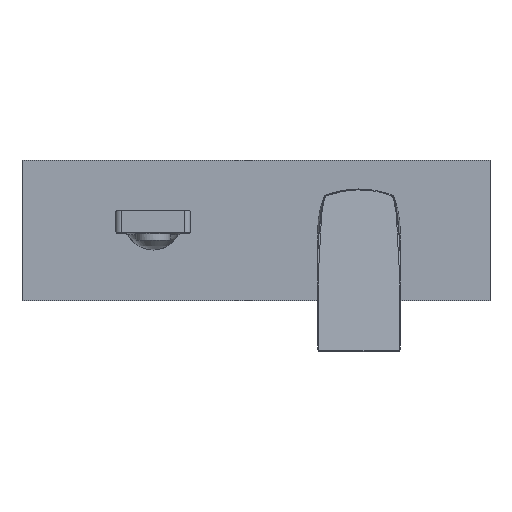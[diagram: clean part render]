
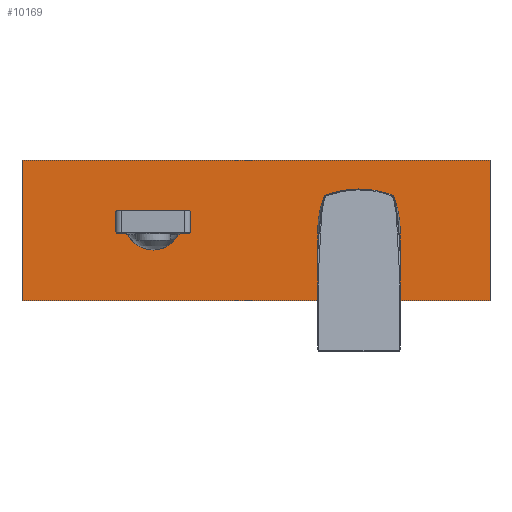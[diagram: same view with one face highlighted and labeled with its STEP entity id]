
A CAD part, top view. The second image highlights one B-rep face of the part: STEP entity #10169.
In plain terms, the highlighted planar face has unit normal (0, 0, 1).
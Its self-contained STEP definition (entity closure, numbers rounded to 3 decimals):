
#1332=DIRECTION('',(0.,-1.,0.));
#1333=VECTOR('',#1332,75.);
#1334=CARTESIAN_POINT('',(-182.,37.5,45.7));
#1335=LINE('',#1334,#1333);
#1336=DIRECTION('',(-1.,0.,0.));
#1337=VECTOR('',#1336,250.);
#1338=CARTESIAN_POINT('',(68.,37.5,45.7));
#1339=LINE('',#1338,#1337);
#1340=DIRECTION('',(0.,1.,0.));
#1341=VECTOR('',#1340,75.);
#1342=CARTESIAN_POINT('',(68.,-37.5,45.7));
#1343=LINE('',#1342,#1341);
#1344=DIRECTION('',(1.,0.,0.));
#1345=VECTOR('',#1344,250.);
#1346=CARTESIAN_POINT('',(-182.,-37.5,45.7));
#1347=LINE('',#1346,#1345);
#1348=CARTESIAN_POINT('',(-2.,0.,45.7));
#1349=DIRECTION('',(0.,0.,1.));
#1350=DIRECTION('',(1.,0.,0.));
#1351=AXIS2_PLACEMENT_3D('',#1348,#1349,#1350);
#1353=CARTESIAN_POINT('',(-2.,0.,45.7));
#1354=DIRECTION('',(0.,0.,1.));
#1355=DIRECTION('',(-1.,0.,0.));
#1356=AXIS2_PLACEMENT_3D('',#1353,#1354,#1355);
#1358=DIRECTION('',(0.,-1.,0.));
#1359=VECTOR('',#1358,9.);
#1360=CARTESIAN_POINT('',(-92.,9.,45.7));
#1361=LINE('',#1360,#1359);
#1362=CARTESIAN_POINT('',(-112.,4.5,45.7));
#1363=DIRECTION('',(0.,0.,-1.));
#1364=DIRECTION('',(0.956,0.293,0.));
#1365=AXIS2_PLACEMENT_3D('',#1362,#1363,#1364);
#1367=DIRECTION('',(1.,0.,0.));
#1368=VECTOR('',#1367,39.205);
#1369=CARTESIAN_POINT('',(-131.602,10.5,45.7));
#1370=LINE('',#1369,#1368);
#1371=CARTESIAN_POINT('',(-112.,4.5,45.7));
#1372=DIRECTION('',(0.,0.,-1.));
#1373=DIRECTION('',(-0.976,0.22,0.));
#1374=AXIS2_PLACEMENT_3D('',#1371,#1372,#1373);
#1376=DIRECTION('',(0.,1.,0.));
#1377=VECTOR('',#1376,9.);
#1378=CARTESIAN_POINT('',(-132.,0.,45.7));
#1379=LINE('',#1378,#1377);
#1380=CARTESIAN_POINT('',(-112.,4.5,45.7));
#1381=DIRECTION('',(0.,0.,-1.));
#1382=DIRECTION('',(-0.956,-0.293,0.));
#1383=AXIS2_PLACEMENT_3D('',#1380,#1381,#1382);
#1385=DIRECTION('',(-1.,0.,0.));
#1386=VECTOR('',#1385,4.922);
#1387=CARTESIAN_POINT('',(-126.68,-1.5,45.7));
#1388=LINE('',#1387,#1386);
#1389=DIRECTION('',(-0.819,0.574,0.));
#1390=VECTOR('',#1389,1.715);
#1391=CARTESIAN_POINT('',(-125.275,-2.484,45.7));
#1392=LINE('',#1391,#1390);
#1393=CARTESIAN_POINT('',(-125.275,-2.484,45.7));
#1394=CARTESIAN_POINT('',(-124.432,-4.086,45.7));
#1395=CARTESIAN_POINT('',(-122.159,-6.982,45.7));
#1396=CARTESIAN_POINT('',(-117.432,-9.837,45.7));
#1397=CARTESIAN_POINT('',(-113.811,-10.5,45.7));
#1398=CARTESIAN_POINT('',(-112.,-10.5,45.7));
#1400=CARTESIAN_POINT('',(-112.,-10.5,45.7));
#1401=CARTESIAN_POINT('',(-110.189,-10.5,45.7));
#1402=CARTESIAN_POINT('',(-106.568,-9.837,45.7));
#1403=CARTESIAN_POINT('',(-101.841,-6.982,45.7));
#1404=CARTESIAN_POINT('',(-99.568,-4.086,45.7));
#1405=CARTESIAN_POINT('',(-98.725,-2.484,45.7));
#1407=DIRECTION('',(-0.819,-0.574,0.));
#1408=VECTOR('',#1407,1.715);
#1409=CARTESIAN_POINT('',(-97.32,-1.5,45.7));
#1410=LINE('',#1409,#1408);
#1411=DIRECTION('',(-1.,0.,0.));
#1412=VECTOR('',#1411,4.922);
#1413=CARTESIAN_POINT('',(-92.398,-1.5,45.7));
#1414=LINE('',#1413,#1412);
#1415=CARTESIAN_POINT('',(-112.,4.5,45.7));
#1416=DIRECTION('',(0.,0.,-1.));
#1417=DIRECTION('',(0.976,-0.22,0.));
#1418=AXIS2_PLACEMENT_3D('',#1415,#1416,#1417);
#8372=CARTESIAN_POINT('',(-182.,-37.5,45.7));
#8373=CARTESIAN_POINT('',(68.,-37.5,45.7));
#8374=VERTEX_POINT('',#8372);
#8375=VERTEX_POINT('',#8373);
#8376=CARTESIAN_POINT('',(68.,37.5,45.7));
#8377=CARTESIAN_POINT('',(-182.,37.5,45.7));
#8378=VERTEX_POINT('',#8376);
#8379=VERTEX_POINT('',#8377);
#8388=CARTESIAN_POINT('',(18.25,0.,45.7));
#8389=CARTESIAN_POINT('',(-22.25,0.,45.7));
#8390=VERTEX_POINT('',#8388);
#8391=VERTEX_POINT('',#8389);
#8624=CARTESIAN_POINT('',(-92.,9.,45.7));
#8625=CARTESIAN_POINT('',(-92.,0.,45.7));
#8626=VERTEX_POINT('',#8624);
#8627=VERTEX_POINT('',#8625);
#8628=CARTESIAN_POINT('',(-92.398,-1.5,45.7));
#8629=CARTESIAN_POINT('',(-97.32,-1.5,45.7));
#8630=VERTEX_POINT('',#8628);
#8631=VERTEX_POINT('',#8629);
#8632=CARTESIAN_POINT('',(-126.68,-1.5,45.7));
#8633=CARTESIAN_POINT('',(-131.602,-1.5,45.7));
#8634=VERTEX_POINT('',#8632);
#8635=VERTEX_POINT('',#8633);
#8636=CARTESIAN_POINT('',(-132.,0.,45.7));
#8637=CARTESIAN_POINT('',(-132.,9.,45.7));
#8638=VERTEX_POINT('',#8636);
#8639=VERTEX_POINT('',#8637);
#8640=CARTESIAN_POINT('',(-131.602,10.5,45.7));
#8641=CARTESIAN_POINT('',(-92.398,10.5,45.7));
#8642=VERTEX_POINT('',#8640);
#8643=VERTEX_POINT('',#8641);
#8644=VERTEX_POINT('',#1400);
#8645=VERTEX_POINT('',#1405);
#8646=VERTEX_POINT('',#1393);
#10124=CARTESIAN_POINT('',(-57.,0.,45.7));
#10125=DIRECTION('',(0.,0.,1.));
#10126=DIRECTION('',(1.,0.,0.));
#10127=AXIS2_PLACEMENT_3D('',#10124,#10125,#10126);
#10128=PLANE('',#10127);
#10129=ORIENTED_EDGE('',*,*,#10076,.F.);
#10130=ORIENTED_EDGE('',*,*,#10091,.F.);
#10131=ORIENTED_EDGE('',*,*,#10105,.F.);
#10132=ORIENTED_EDGE('',*,*,#10118,.F.);
#10133=EDGE_LOOP('',(#10129,#10130,#10131,#10132));
#10134=FACE_OUTER_BOUND('',#10133,.F.);
#10136=ORIENTED_EDGE('',*,*,#10135,.T.);
#10138=ORIENTED_EDGE('',*,*,#10137,.T.);
#10139=EDGE_LOOP('',(#10136,#10138));
#10140=FACE_BOUND('',#10139,.F.);
#10142=ORIENTED_EDGE('',*,*,#10141,.F.);
#10144=ORIENTED_EDGE('',*,*,#10143,.F.);
#10146=ORIENTED_EDGE('',*,*,#10145,.F.);
#10148=ORIENTED_EDGE('',*,*,#10147,.F.);
#10150=ORIENTED_EDGE('',*,*,#10149,.F.);
#10152=ORIENTED_EDGE('',*,*,#10151,.F.);
#10154=ORIENTED_EDGE('',*,*,#10153,.F.);
#10156=ORIENTED_EDGE('',*,*,#10155,.F.);
#10158=ORIENTED_EDGE('',*,*,#10157,.T.);
#10160=ORIENTED_EDGE('',*,*,#10159,.T.);
#10162=ORIENTED_EDGE('',*,*,#10161,.F.);
#10164=ORIENTED_EDGE('',*,*,#10163,.F.);
#10166=ORIENTED_EDGE('',*,*,#10165,.F.);
#10167=EDGE_LOOP('',(#10142,#10144,#10146,#10148,#10150,#10152,#10154,#10156,
#10158,#10160,#10162,#10164,#10166));
#10168=FACE_BOUND('',#10167,.F.);
#10169=ADVANCED_FACE('',(#10134,#10140,#10168),#10128,.T.);
#1352=CIRCLE('',#1351,20.25);
#1357=CIRCLE('',#1356,20.25);
#1366=CIRCLE('',#1365,20.5);
#1375=CIRCLE('',#1374,20.5);
#1384=CIRCLE('',#1383,20.5);
#1399=B_SPLINE_CURVE_WITH_KNOTS('',3,(#1393,#1394,#1395,#1396,#1397,#1398),
.UNSPECIFIED.,.F.,.F.,(4,1,1,4),(0.,0.333,0.667,1.),
.UNSPECIFIED.);
#1406=B_SPLINE_CURVE_WITH_KNOTS('',3,(#1400,#1401,#1402,#1403,#1404,#1405),
.UNSPECIFIED.,.F.,.F.,(4,1,1,4),(0.,0.333,0.667,1.),
.UNSPECIFIED.);
#1419=CIRCLE('',#1418,20.5);
#10076=EDGE_CURVE('',#8379,#8374,#1335,.T.);
#10091=EDGE_CURVE('',#8378,#8379,#1339,.T.);
#10105=EDGE_CURVE('',#8375,#8378,#1343,.T.);
#10118=EDGE_CURVE('',#8374,#8375,#1347,.T.);
#10135=EDGE_CURVE('',#8390,#8391,#1352,.T.);
#10137=EDGE_CURVE('',#8391,#8390,#1357,.T.);
#10141=EDGE_CURVE('',#8626,#8627,#1361,.T.);
#10143=EDGE_CURVE('',#8643,#8626,#1366,.T.);
#10145=EDGE_CURVE('',#8642,#8643,#1370,.T.);
#10147=EDGE_CURVE('',#8639,#8642,#1375,.T.);
#10149=EDGE_CURVE('',#8638,#8639,#1379,.T.);
#10151=EDGE_CURVE('',#8635,#8638,#1384,.T.);
#10153=EDGE_CURVE('',#8634,#8635,#1388,.T.);
#10155=EDGE_CURVE('',#8646,#8634,#1392,.T.);
#10157=EDGE_CURVE('',#8646,#8644,#1399,.T.);
#10159=EDGE_CURVE('',#8644,#8645,#1406,.T.);
#10161=EDGE_CURVE('',#8631,#8645,#1410,.T.);
#10163=EDGE_CURVE('',#8630,#8631,#1414,.T.);
#10165=EDGE_CURVE('',#8627,#8630,#1419,.T.);
